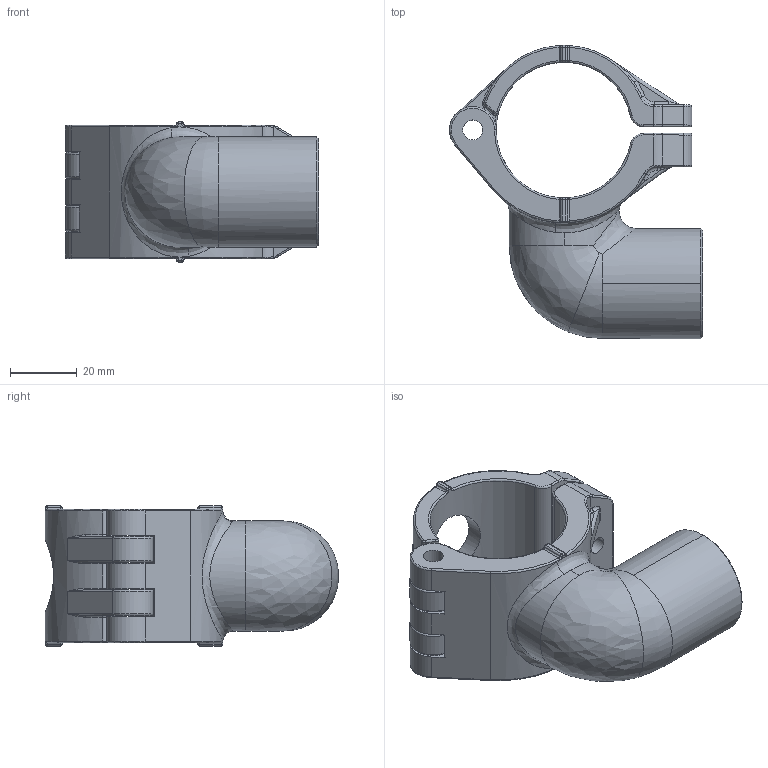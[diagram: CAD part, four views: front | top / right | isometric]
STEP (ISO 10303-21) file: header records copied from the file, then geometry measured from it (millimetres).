
FILE_DESCRIPTION(/* description */ (''),/* implementation_level */ '2;1');
FILE_NAME(/* name */ '4111_stp.stp',/* time_stamp */ '2025-06-20T11:23:08+08:00',/* author */ (''),/* organization */ (''),/* preprocessor_version */ 'ST-DEVELOPER v14',/* originating_system */ 'SIEMENS PLM Software NX 8.0',/* authorisation */ '');
FILE_SCHEMA (('AP203_CONFIGURATION_CONTROLLED_3D_DESIGN_OF_MECHANICAL_PARTS_AND_ASSEMBLIES_MIM_LF { 1 0 10303 403 2 1 2}'));
Length unit declared in the file: millimetre
Products named in the file (1): Admi144825784x90
Bounding box: 75.85 x 87.85 x 42 mm (x, y, z)
Volume: 70771.2 mm3; surface area: 28187.6 mm2
Topology: 2 solids, 2 shells, 350 faces, 871 edges, 502 vertices
Faces by surface type: cylinder 123, torus 97, bspline 54, plane 48, sphere 16, cone 12
Entity records: 15247 total; most frequent: CARTESIAN_POINT 7175, DIRECTION 1726, ORIENTED_EDGE 1686, EDGE_CURVE 843, AXIS2_PLACEMENT_3D 759, VERTEX_POINT 502, CIRCLE 462, EDGE_LOOP 373
